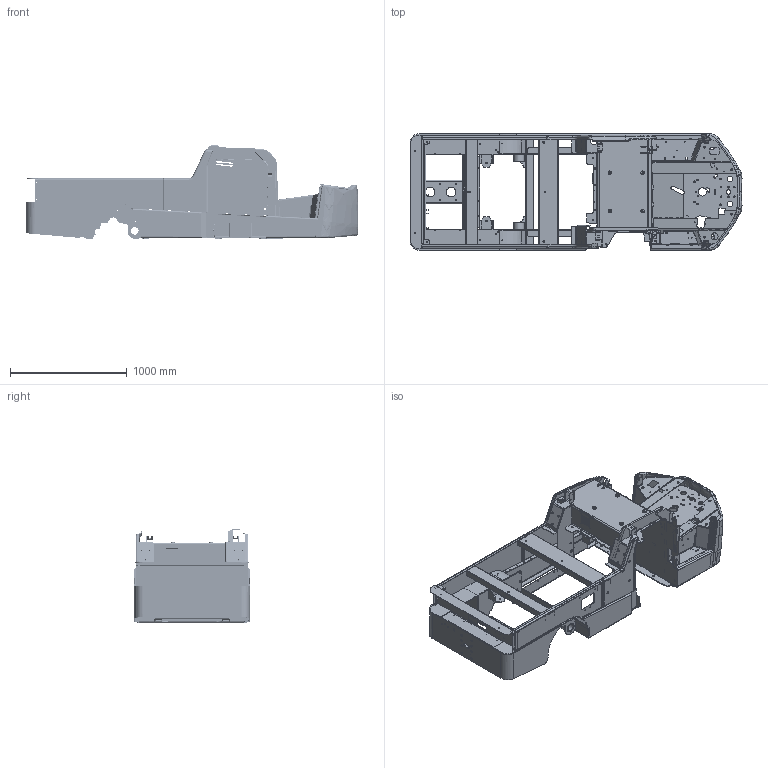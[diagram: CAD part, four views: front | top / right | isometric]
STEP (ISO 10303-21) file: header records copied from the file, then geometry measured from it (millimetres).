
FILE_DESCRIPTION(/* description */ (''),/* implementation_level */ '2;1');
FILE_NAME(/* name */ '11918086083m000_00.stp',/* time_stamp */ '2015-01-15T12:42:28+01:00',/* author */ (''),/* organization */ (''),/* preprocessor_version */ 'ST-DEVELOPER v11',/* originating_system */ 'SIEMENS PLM Software NX 7.5',/* authorisation */ '');
FILE_SCHEMA (('AUTOMOTIVE_DESIGN { 1 0 10303 214 1 1 1 1 }'));
Products named in the file (1): fr4717897vpn
Bounding box: 2839.17 x 996 x 797.5 mm (x, y, z)
Volume: 53101984.5 mm3; surface area: 18248241.3 mm2
Topology: 280 solids, 281 shells, 6461 faces, 16816 edges, 11344 vertices
Faces by surface type: plane 3259, cylinder 1738, cone 905, bspline 507, torus 45, extrusion 7
Full cylindrical faces by diameter (mm): 3.242 x4, 4.918 x7, 5 x2, 5.6 x7, 6 x26, 6.25 x4, 6.4 x7, 6.5 x62, 6.647 x24, 6.8 x7, 6.985 x1, 7 x2, 7.794 x1, 8 x30, 8.2 x7, 8.376 x7, 8.5 x2, 9 x8, 10 x23, 10.376 x6, 10.5 x78, 11 x1, 11.835 x2, 12 x8, 12.5 x21, 13 x5, 13.5 x8, 14 x1, 14.5 x6, 14.8 x18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
Entity records: 225579 total; most frequent: CARTESIAN_POINT 69337, ORIENTED_EDGE 31164, DIRECTION 29997, EDGE_CURVE 15584, AXIS2_PLACEMENT_3D 10688, VERTEX_POINT 10404, VECTOR 8621, LINE 8614
